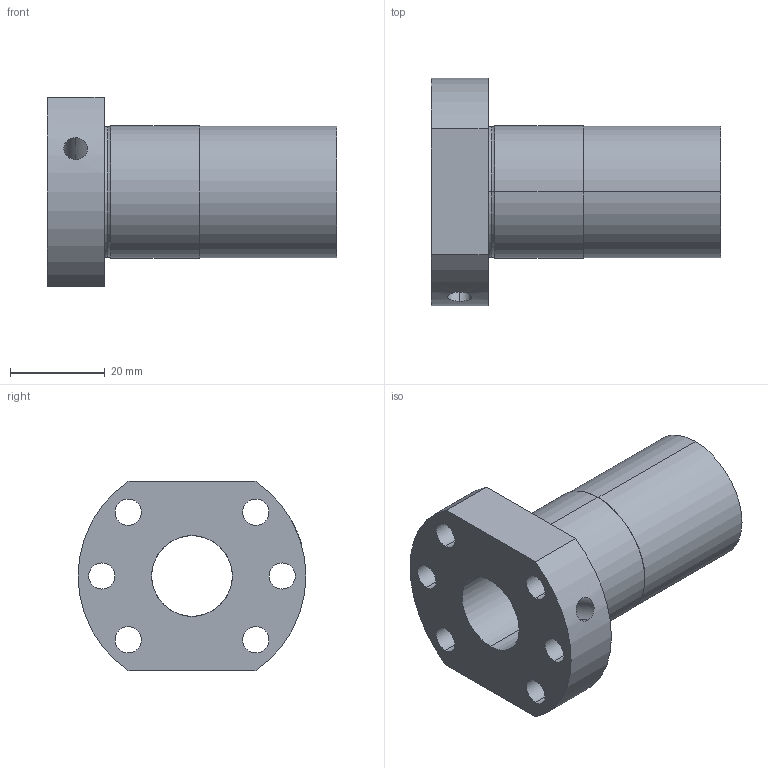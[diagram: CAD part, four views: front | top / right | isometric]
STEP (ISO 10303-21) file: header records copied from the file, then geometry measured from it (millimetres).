
FILE_DESCRIPTION (( 'STEP AP214' ), '1' );
FILE_NAME ('LLE1616-F.STEP', '2020-12-17T06:29:26', ( 'user' ), ( 'datathink' ), 'SwSTEP 2.0', 'SolidWorks 2013', '' );
FILE_SCHEMA (( 'AUTOMOTIVE_DESIGN' ));
Length unit declared in the file: millimetre
Products named in the file (1): LLE1616-F
Bounding box: 61 x 48 x 40 mm (x, y, z)
Volume: 33268.8 mm3; surface area: 13766.6 mm2
Topology: 1 solids, 1 shells, 50 faces, 134 edges, 88 vertices
Faces by surface type: cylinder 34, plane 10, torus 4, bspline 2
Entity records: 2640 total; most frequent: CARTESIAN_POINT 1361, ORIENTED_EDGE 268, DIRECTION 248, EDGE_CURVE 134, AXIS2_PLACEMENT_3D 103, VERTEX_POINT 88, EDGE_LOOP 68, CIRCLE 54
